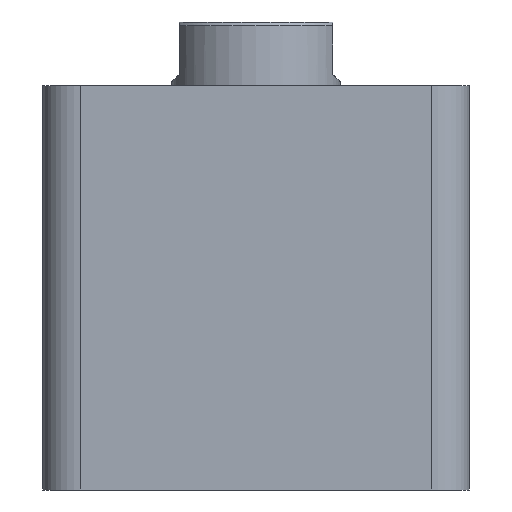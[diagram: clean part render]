
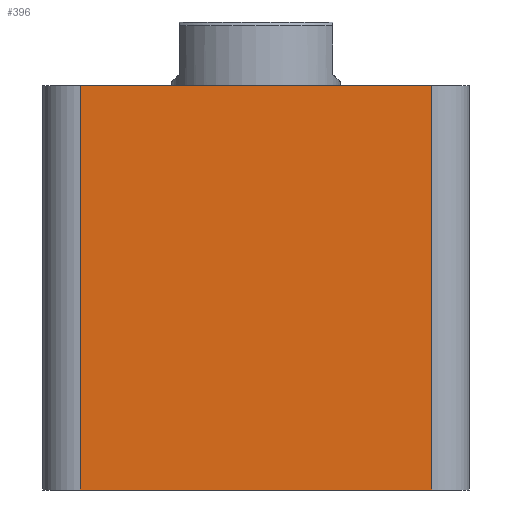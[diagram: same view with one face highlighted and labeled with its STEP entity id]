
A CAD part, front view. The second image highlights one B-rep face of the part: STEP entity #396.
In plain terms, the highlighted planar face has unit normal (0, -1, 0).
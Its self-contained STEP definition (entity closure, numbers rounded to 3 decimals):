
#13 = VERTEX_POINT ( 'NONE', #243 ) ;
#14 = VERTEX_POINT ( 'NONE', #222 ) ;
#16 = VERTEX_POINT ( 'NONE', #208 ) ;
#32 = VERTEX_POINT ( 'NONE', #187 ) ;
#78 = ORIENTED_EDGE ( 'NONE', *, *, #2003, .T. ) ;
#79 = ORIENTED_EDGE ( 'NONE', *, *, #2004, .T. ) ;
#80 = ORIENTED_EDGE ( 'NONE', *, *, #2005, .F. ) ;
#81 = ORIENTED_EDGE ( 'NONE', *, *, #2006, .T. ) ;
#113 = DIRECTION ( 'NONE',  ( 0., 0., 1. ) ) ;
#114 = DIRECTION ( 'NONE',  ( 0., 1., 0. ) ) ;
#116 = PLANE ( 'NONE',  #2052 ) ;
#129 = CARTESIAN_POINT ( 'NONE',  ( -57., -57., 108. ) ) ;
#187 = CARTESIAN_POINT ( 'NONE',  ( -47., -57., 108. ) ) ;
#208 = CARTESIAN_POINT ( 'NONE',  ( 47., -57., 108. ) ) ;
#222 = CARTESIAN_POINT ( 'NONE',  ( 47., -57., 0. ) ) ;
#243 = CARTESIAN_POINT ( 'NONE',  ( -47., -57., 0. ) ) ;
#396 = ADVANCED_FACE ( 'NONE', ( #1506 ), #116, .F. ) ;
#522 = EDGE_LOOP ( 'NONE', ( #78, #79, #80, #81 ) ) ;
#1506 = FACE_OUTER_BOUND ( 'NONE', #522, .T. ) ;
#1621 = VECTOR ( 'NONE', #2442, 1000. ) ;
#1623 = VECTOR ( 'NONE', #2440, 1000. ) ;
#1624 = LINE ( 'NONE', #2441, #1621 ) ;
#1625 = VECTOR ( 'NONE', #2438, 1000. ) ;
#1626 = LINE ( 'NONE', #2439, #1623 ) ;
#1627 = VECTOR ( 'NONE', #2437, 1000. ) ;
#1630 = LINE ( 'NONE', #2424, #1625 ) ;
#1631 = LINE ( 'NONE', #2432, #1627 ) ;
#2003 = EDGE_CURVE ( 'NONE', #13, #14, #1631, .T. ) ;
#2004 = EDGE_CURVE ( 'NONE', #14, #16, #1630, .T. ) ;
#2005 = EDGE_CURVE ( 'NONE', #32, #16, #1626, .T. ) ;
#2006 = EDGE_CURVE ( 'NONE', #32, #13, #1624, .T. ) ;
#2052 = AXIS2_PLACEMENT_3D ( 'NONE', #129, #114, #113 ) ;
#2424 = CARTESIAN_POINT ( 'NONE',  ( 47., -57., 108. ) ) ;
#2432 = CARTESIAN_POINT ( 'NONE',  ( -57., -57., 0. ) ) ;
#2437 = DIRECTION ( 'NONE',  ( 1., 0., 0. ) ) ;
#2438 = DIRECTION ( 'NONE',  ( 0., 0., 1. ) ) ;
#2439 = CARTESIAN_POINT ( 'NONE',  ( -57., -57., 108. ) ) ;
#2440 = DIRECTION ( 'NONE',  ( 1., 0., 0. ) ) ;
#2441 = CARTESIAN_POINT ( 'NONE',  ( -47., -57., 108. ) ) ;
#2442 = DIRECTION ( 'NONE',  ( 0., 0., -1. ) ) ;
